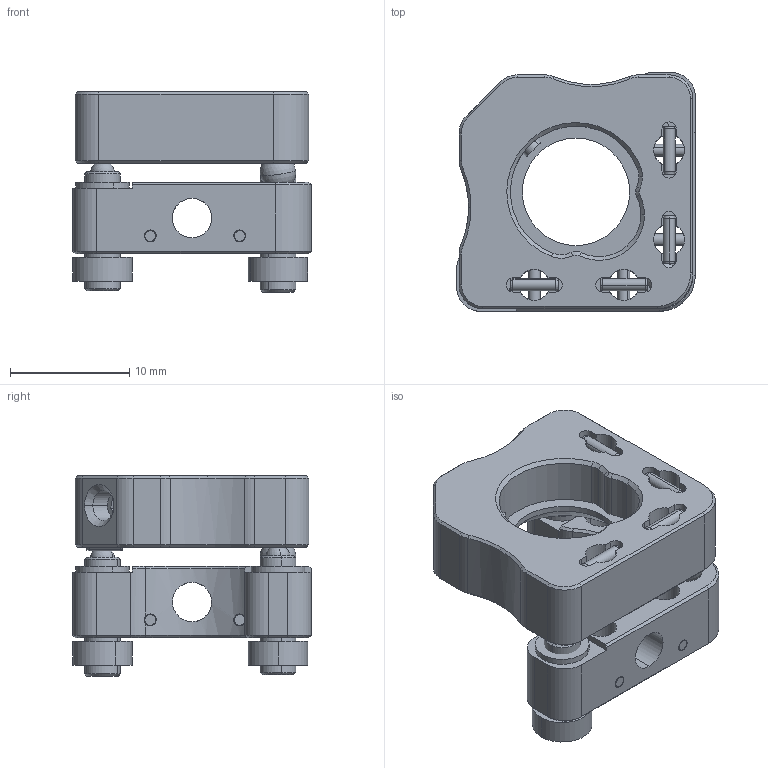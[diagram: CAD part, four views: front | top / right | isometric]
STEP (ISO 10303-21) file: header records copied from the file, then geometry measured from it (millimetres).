
FILE_DESCRIPTION (( 'STEP AP203' ), '1' );
FILE_NAME ('NMM10m.STEP', '2022-07-15T05:59:12', ( '' ), ( '' ), 'SwSTEP 2.0', 'SolidWorks 2021', '' );
FILE_SCHEMA (( 'CONFIG_CONTROL_DESIGN' ));
Length unit declared in the file: millimetre
Products named in the file (1): NMM10m
Bounding box: 20 x 20 x 16.82 mm (x, y, z)
Surface area: 2954 mm2 (no closed solid volume)
Topology: 0 solids, 25 shells, 487 faces, 1301 edges, 834 vertices
Faces by surface type: plane 258, cylinder 118, cone 105, sphere 6
Entity records: 15332 total; most frequent: CARTESIAN_POINT 3028, DIRECTION 2585, ORIENTED_EDGE 2425, EDGE_CURVE 1282, LINE 877, VECTOR 877, AXIS2_PLACEMENT_3D 854, VERTEX_POINT 825
